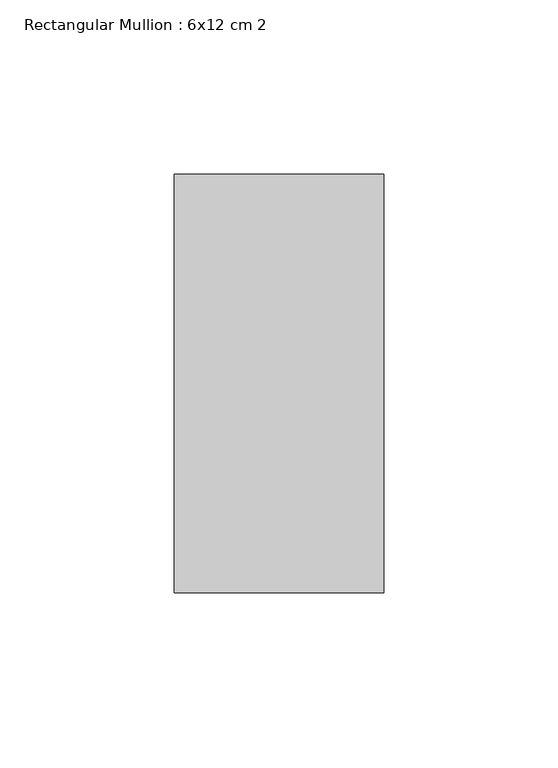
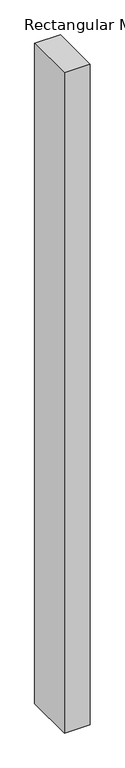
"""IFC4 building model written with IfcOpenShell, lengths in millimetres: member geometry, Rectangular Mullion : 6x12 cm 2."""

from ifc_helpers import new_model, si_unit, frame, origin, place, context, project, spatial, polyline, outline, extrude, source, transform, mapped, element, save


def rectangular_mullion_6x12_cm_2_19c5835f(model_context):
    return source(origin(), model_context, "Body", "SweptSolid", [
        extrude(outline(polyline([(0.0, 205.0), (0.0, 85.0), (-60.0, 85.0), (-60.0, 205.0), (0.0, 205.0)])), frame((0.0, 0.0, -1632.0710038), z_axis=(0.0, 0.0, 1.0), x_axis=(1.0, 0.0, 0.0)), (0.0, 0.0, 1.0), 1632.0710038),
    ])


if __name__ == "__main__":
    model = new_model("IFC4")
    model_context = context("Model", 3, world=origin())
    ifc_project = project(units=[si_unit("LENGTHUNIT", "METRE", prefix="MILLI")], contexts=[model_context])
    site = spatial("IfcSite", under=ifc_project)
    building = spatial("IfcBuilding", under=site)
    placement = place(None, origin())
    rectangular_mullion_6x12_cm_2_shape = rectangular_mullion_6x12_cm_2_19c5835f(model_context)
    element("IfcMember", 1, ObjectType="Rectangular Mullion : 6x12 cm 2", at=placement, inside=building, context=model_context, shape_type="MappedRepresentation", body=[
        mapped(rectangular_mullion_6x12_cm_2_shape, transform((0.0, 0.0, 0.0), x_axis=(1.0, 0.0, 0.0), y_axis=(0.0, 1.0, 0.0), z_axis=(0.0, 0.0, 1.0))),
    ])
    save(model, "model.ifc")
